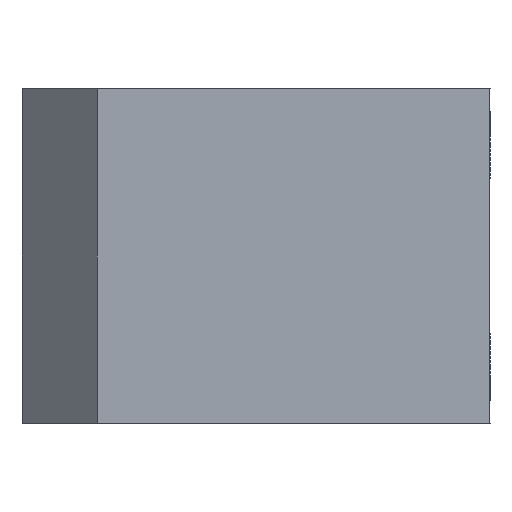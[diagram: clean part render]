
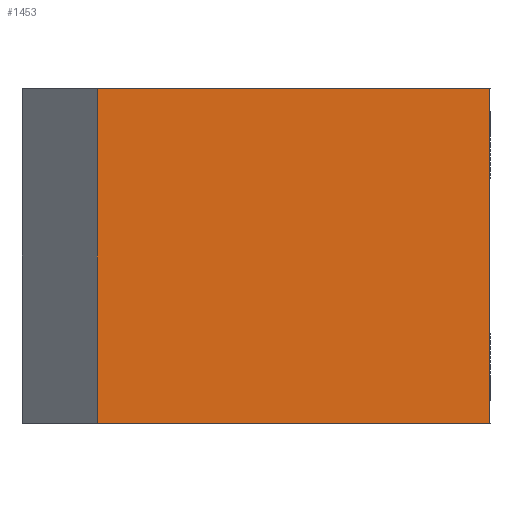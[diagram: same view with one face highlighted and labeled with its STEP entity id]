
A CAD part, left-side view. The second image highlights one B-rep face of the part: STEP entity #1453.
In plain terms, the highlighted planar face has unit normal (-1, 0, 0).
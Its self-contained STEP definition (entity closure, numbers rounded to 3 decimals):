
#6 = VERTEX_POINT ( 'NONE', #1364 ) ;
#29 = CARTESIAN_POINT ( 'NONE',  ( -34., -28., 20. ) ) ;
#64 = VECTOR ( 'NONE', #307, 1000. ) ;
#178 = DIRECTION ( 'NONE',  ( 0., -1., 0. ) ) ;
#282 = FACE_OUTER_BOUND ( 'NONE', #589, .T. ) ;
#306 = DIRECTION ( 'NONE',  ( 0., -1., 0. ) ) ;
#307 = DIRECTION ( 'NONE',  ( 0., 0., 1. ) ) ;
#310 = VERTEX_POINT ( 'NONE', #29 ) ;
#366 = CARTESIAN_POINT ( 'NONE',  ( -34., -28., 20. ) ) ;
#370 = EDGE_CURVE ( 'NONE', #680, #6, #1682, .T. ) ;
#383 = LINE ( 'NONE', #547, #900 ) ;
#390 = ORIENTED_EDGE ( 'NONE', *, *, #1056, .T. ) ;
#394 = EDGE_CURVE ( 'NONE', #680, #1384, #860, .T. ) ;
#444 = DIRECTION ( 'NONE',  ( -1., 0., 0. ) ) ;
#447 = CARTESIAN_POINT ( 'NONE',  ( -34., 19., -20. ) ) ;
#547 = CARTESIAN_POINT ( 'NONE',  ( -34., -28., -20. ) ) ;
#583 = CARTESIAN_POINT ( 'NONE',  ( -34., 19., -20. ) ) ;
#589 = EDGE_LOOP ( 'NONE', ( #1033, #689, #390, #1412 ) ) ;
#680 = VERTEX_POINT ( 'NONE', #447 ) ;
#689 = ORIENTED_EDGE ( 'NONE', *, *, #394, .T. ) ;
#820 = DIRECTION ( 'NONE',  ( 0., 0., 1. ) ) ;
#860 = LINE ( 'NONE', #1415, #865 ) ;
#865 = VECTOR ( 'NONE', #178, 1000. ) ;
#900 = VECTOR ( 'NONE', #820, 1000. ) ;
#1033 = ORIENTED_EDGE ( 'NONE', *, *, #370, .F. ) ;
#1056 = EDGE_CURVE ( 'NONE', #1384, #310, #383, .T. ) ;
#1128 = PLANE ( 'NONE',  #1527 ) ;
#1364 = CARTESIAN_POINT ( 'NONE',  ( -34., 19., 20. ) ) ;
#1384 = VERTEX_POINT ( 'NONE', #1486 ) ;
#1407 = CARTESIAN_POINT ( 'NONE',  ( -34., -28., -20. ) ) ;
#1412 = ORIENTED_EDGE ( 'NONE', *, *, #1662, .F. ) ;
#1415 = CARTESIAN_POINT ( 'NONE',  ( -34., -28., -20. ) ) ;
#1453 = ADVANCED_FACE ( 'NONE', ( #282 ), #1128, .T. ) ;
#1486 = CARTESIAN_POINT ( 'NONE',  ( -34., -28., -20. ) ) ;
#1527 = AXIS2_PLACEMENT_3D ( 'NONE', #1407, #444, #306 ) ;
#1611 = DIRECTION ( 'NONE',  ( 0., -1., 0. ) ) ;
#1644 = LINE ( 'NONE', #366, #1748 ) ;
#1662 = EDGE_CURVE ( 'NONE', #6, #310, #1644, .T. ) ;
#1682 = LINE ( 'NONE', #583, #64 ) ;
#1748 = VECTOR ( 'NONE', #1611, 1000. ) ;
